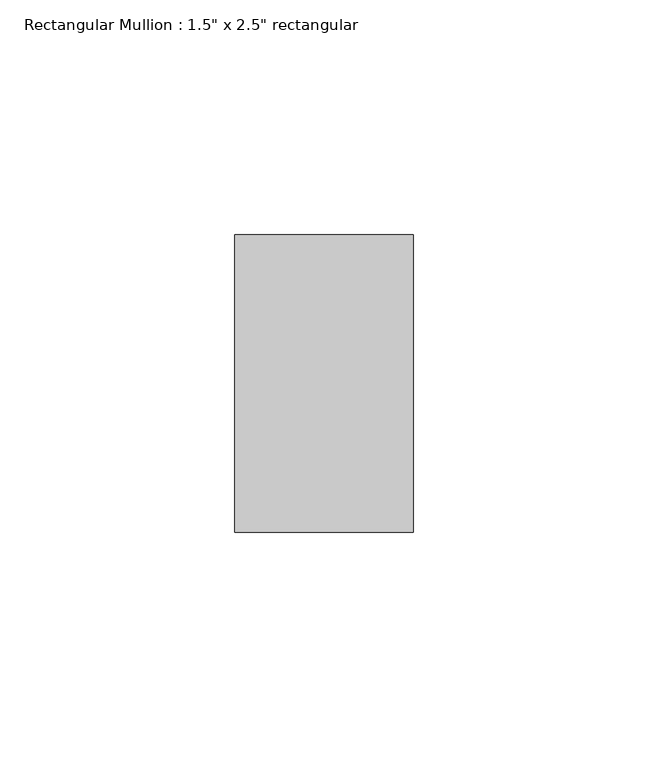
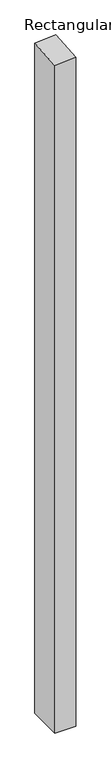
"""IFC4 building model written with IfcOpenShell, lengths in millimetres: member geometry."""

from ifc_helpers import new_model, si_unit, origin, place, context, project, spatial, faceted_brep, source, transform, mapped, element, save


def member_a993bdff(model_context):
    return source(origin(), model_context, "Body", "Brep", [
        faceted_brep([(19.05, 31.75, -1291.7201958), (19.05, -31.75, -1291.7201958), (-19.05, -31.75, -1291.7201958), (-19.05, 31.75, -1291.7201958), (-19.05, 31.75, 0.9012453), (19.05, 31.75, 3.6321269), (-19.05, -31.75, -3.6321269), (19.05, -31.75, -0.9012453)], [[[0, 1, 2, 3]], [[4, 5, 0, 3]], [[6, 4, 3, 2]], [[7, 6, 2, 1]], [[5, 7, 1, 0]], [[5, 4, 6, 7]]]),
    ])


if __name__ == "__main__":
    model = new_model("IFC4")
    model_context = context("Model", 3, world=origin())
    ifc_project = project(units=[si_unit("LENGTHUNIT", "METRE", prefix="MILLI")], contexts=[model_context])
    site = spatial("IfcSite", under=ifc_project)
    building = spatial("IfcBuilding", under=site)
    placement = place(None, origin())
    member_shape = member_a993bdff(model_context)
    element("IfcMember", 1, ObjectType="Rectangular Mullion : 1.5\" x 2.5\" rectangular", at=placement, inside=building, context=model_context, shape_type="MappedRepresentation", body=[
        mapped(member_shape, transform((0.0, 0.0, 0.0), x_axis=(1.0, 0.0, 0.0), y_axis=(0.0, 1.0, 0.0), z_axis=(0.0, 0.0, 1.0))),
    ])
    save(model, "model.ifc")
